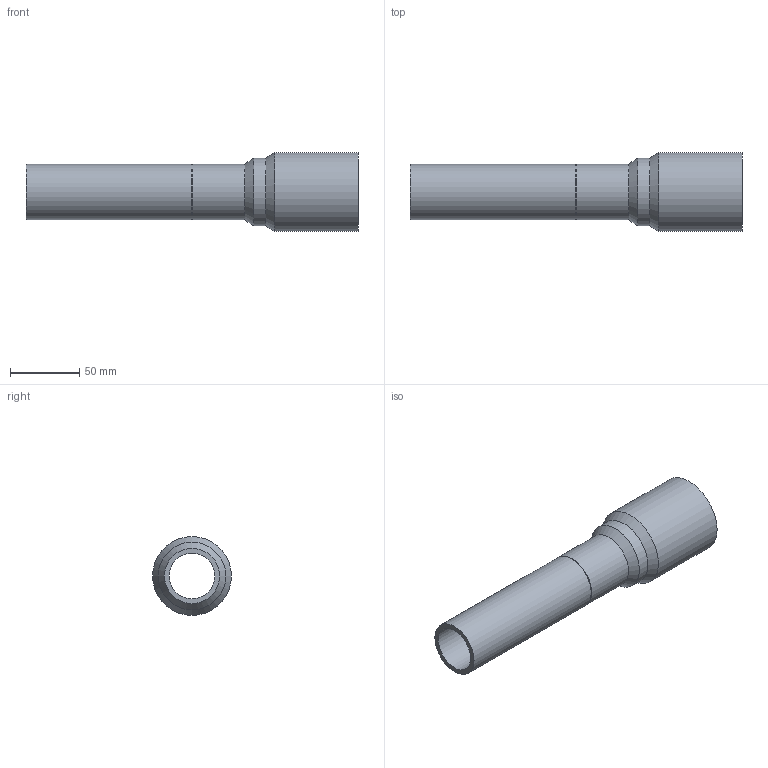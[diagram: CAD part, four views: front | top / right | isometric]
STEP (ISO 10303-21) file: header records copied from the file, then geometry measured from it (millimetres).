
FILE_DESCRIPTION(/* description */ (''),/* implementation_level */ '2;1');
FILE_NAME(/* name */ 'Z:\Geberit\Export\NewStep\152153.stp',/* time_stamp */ '2014-03-31T08:23:09+02:00',/* author */ ('nelson'),/* organization */ (''),/* preprocessor_version */ 'ST-DEVELOPER v15.2',/* originating_system */ 'Autodesk Inventor 2014',/* authorisation */ '');
FILE_SCHEMA (('AUTOMOTIVE_DESIGN { 1 0 10303 214 3 1 1 }'));
Length unit declared in the file: millimetre
Products named in the file (1): 152153
Bounding box: 240 x 57 x 57 mm (x, y, z)
Volume: 109675.4 mm3; surface area: 64429.9 mm2
Topology: 1 solids, 1 shells, 15 faces, 28 edges, 15 vertices
Faces by surface type: cylinder 7, cone 6, plane 2
Full cylindrical faces by diameter (mm): 33 x1, 40 x2, 42 x1, 49 x1, 50 x1, 57 x1
Entity records: 344 total; most frequent: DIRECTION 62, CARTESIAN_POINT 46, AXIS2_PLACEMENT_3D 31, EDGE_LOOP 30, ORIENTED_EDGE 30, FACE_BOUND 16, STYLED_ITEM 16, CIRCLE 15
